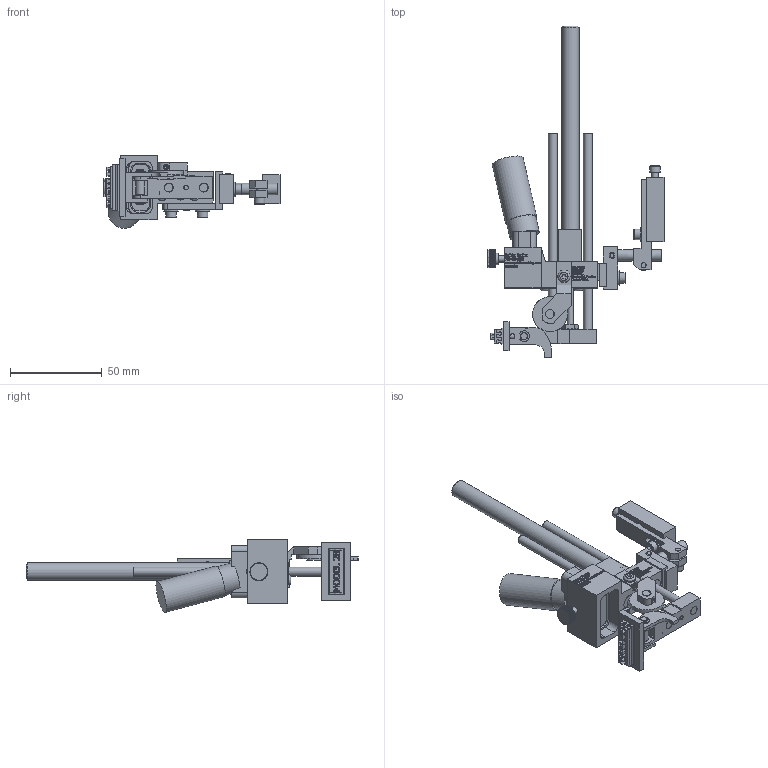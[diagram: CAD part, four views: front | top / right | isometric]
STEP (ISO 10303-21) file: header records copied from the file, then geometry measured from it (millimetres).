
FILE_DESCRIPTION((''),'2;1');
FILE_NAME('C:\Documents and Settings\Ron\My Documents\Inventor\Sprinter Drawing\Machines in Inventor\Model 28\Type\Ext Str\E2\Brkt\90\Model 28 E2 Type 90 deg w brkt.stp','2009-01-22T13:29:24',('Ron'),(''),'Autodesk Inventor 2008','Autodesk Inventor 2008','');
FILE_SCHEMA(('AUTOMOTIVE_DESIGN { 1 0 10303 214 1 1 1 1 }'));
Length unit declared in the file: inch
Products named in the file (1): Model 28 E2 Type 90 deg w brkt
Bounding box: 95.97 x 181.04 x 39.63 mm (x, y, z)
Volume: 72680.3 mm3; surface area: 40105.7 mm2
Topology: 33 solids, 33 shells, 4149 faces, 11286 edges, 7490 vertices
Faces by surface type: plane 2432, bspline 1345, cylinder 310, cone 48, torus 14
Full cylindrical faces by diameter (mm): 2.337 x1, 2.845 x3, 2.946 x2, 3.048 x1, 3.175 x2, 3.454 x1, 3.505 x7, 3.658 x1, 3.876 x1, 3.962 x8, 3.988 x1, 4.064 x1, 4.648 x2, 4.699 x1, 4.75 x1, 4.763 x2, 4.775 x2, 4.788 x1, 5.41 x2, 5.74 x6, 6.096 x1, 6.325 x2, 6.35 x2, 6.655 x1, 7.239 x1, 7.925 x4, 7.938 x1, 8.128 x1, 9.525 x1, 10.922 x1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
Entity records: 143333 total; most frequent: CARTESIAN_POINT 46016, ORIENTED_EDGE 22092, DIRECTION 14879, EDGE_CURVE 11046, VECTOR 7495, LINE 7495, VERTEX_POINT 7414, EDGE_LOOP 4672
